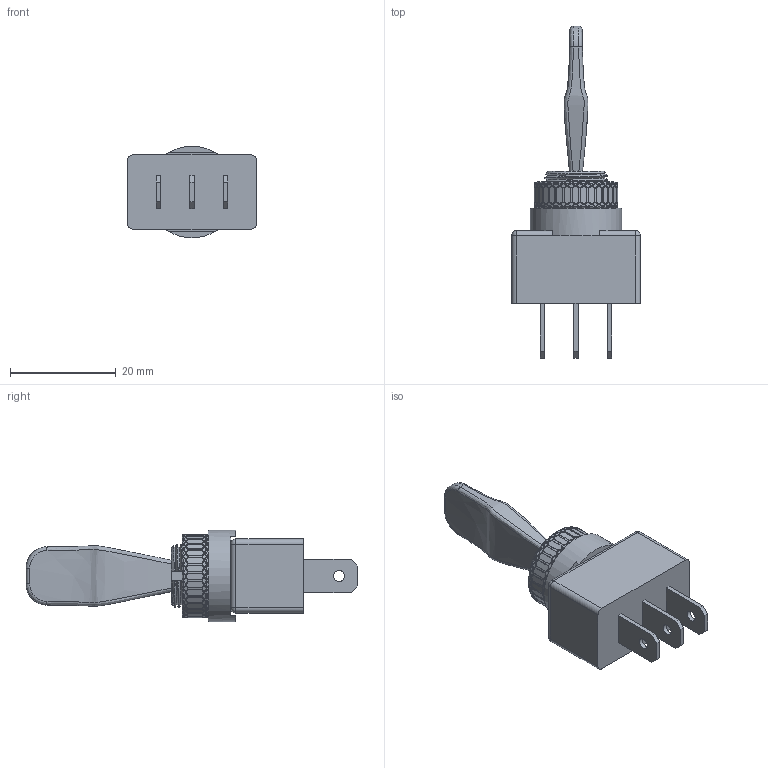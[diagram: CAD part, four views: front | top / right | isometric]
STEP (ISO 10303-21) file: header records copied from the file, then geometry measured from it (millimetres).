
FILE_DESCRIPTION(/* description */ (''),/* implementation_level */ '2;1');
FILE_NAME(/* name */ 'C:\Users\Hani\Desktop\work\TE1-1F-DC-1-PB\TE1-1F-DC-1-PB.stp',/* time_stamp */ '2021-01-20T17:24:16-08:00',/* author */ ('Hani'),/* organization */ (''),/* preprocessor_version */ 'ST-DEVELOPER v17',/* originating_system */ 'Autodesk Inventor 2019',/* authorisation */ '');
FILE_SCHEMA (('AUTOMOTIVE_DESIGN { 1 0 10303 214 3 1 1 }'));
Length unit declared in the file: inch
Products named in the file (6): TE1-1F-DC-1-PB; TE1-1F-DC-1-PB_1; TOGGLE SWITCH; Knurled NUT; keyway_nut; TOGGLE SWITCH2
Assembly tree (5 placements, depth 2):
  TE1-1F-DC-1-PB
    TE1-1F-DC-1-PB_1
    TOGGLE SWITCH
    Knurled NUT
    keyway_nut
    TOGGLE SWITCH2
Bounding box: 24.4 x 62.8 x 17.3 mm (x, y, z)
Volume: 7461.2 mm3; surface area: 5544.8 mm2
Topology: 6 solids, 6 shells, 1210 faces, 3294 edges, 2191 vertices
Faces by surface type: plane 939, cylinder 211, bspline 44, cone 10, sphere 4, torus 2
Full cylindrical faces by diameter (mm): 2.1 x3, 8.636 x1, 11.047 x3, 11.831 x1, 11.841 x1, 11.906 x4, 12.471 x1, 15.367 x1, 15.723 x1, 17.297 x1
Entity records: 56104 total; most frequent: CARTESIAN_POINT 24413, DIRECTION 7061, ORIENTED_EDGE 6584, EDGE_CURVE 3292, AXIS2_PLACEMENT_3D 2996, VERTEX_POINT 2191, ELLIPSE 1408, EDGE_LOOP 1319
